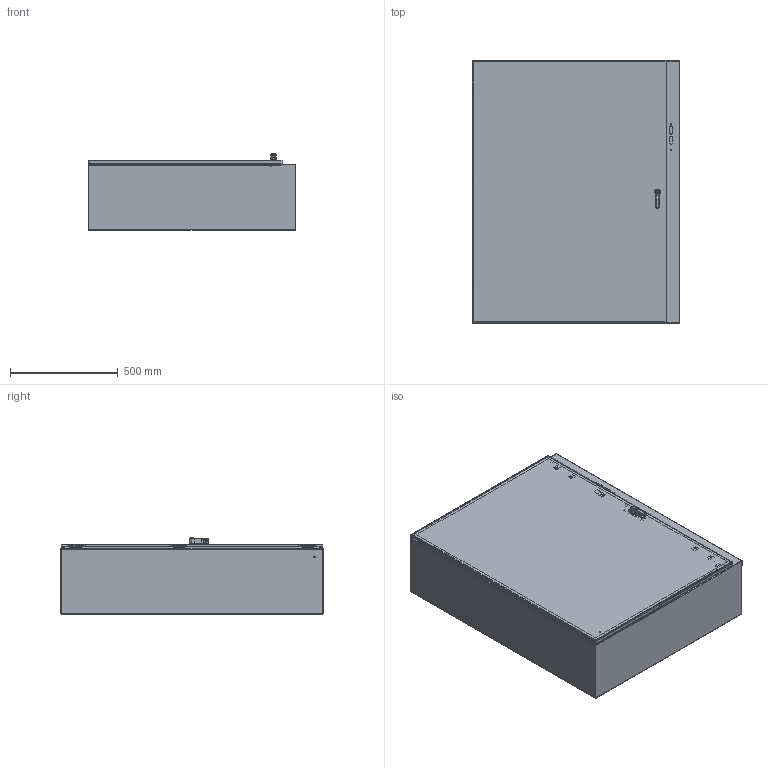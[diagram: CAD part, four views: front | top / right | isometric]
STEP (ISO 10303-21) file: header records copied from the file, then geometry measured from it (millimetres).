
FILE_DESCRIPTION (( 'STEP AP203' ), '1' );
FILE_NAME ('78310.step', '2014-10-10T08:37:18', ( 'admin' ), ( '' ), 'SwSTEP 2.0', 'SolidWorks 2010', '' );
FILE_SCHEMA (( 'CONFIG_CONTROL_DESIGN' ));
Length unit declared in the file: inch
Products named in the file (39): 78310; 89083097; 87756333; 64424005; 64424006; 23271001_After Weld; 99401225_Config-Drawing; 87543027; 89076399; 89076193; 89056623; 87929507; 87929767; 87929769_Installed on Pin; 87938404_assy; 87938426_fip; 87938383; 99401225; 23101001; 51123001_Post weld; 87415914_Locked; 64157001_Locked; 87540678; 64210001; 64208001; 64205001; 87541995; 87541994_Installed Height; 87927840_87927840; 64212006; 64144001; 64206005; 64207001; 64103001; 99411834; 87555298; 87938437; 87784879_CWHPTO; 79410_LOCKED
Assembly tree (60 placements, depth 5):
  78310
    89083097
      64424005
      23271001_After Weld  x8
      64424006
      99401225_Config-Drawing
      87756333
    87929507  x3
      87929767
      87929769_Installed on Pin
    89076399  x3
      89076193
      89056623
    87938404_assy
      87938426_fip
        87938383
        99401225
        23101001
        51123001_Post weld
      87938437
      87555298
      87415914_Locked
        64103001  x5
        64207001  x2
        64206005  x2
        64144001
        64212006
        99411834  x3
        64157001_Locked
          64210001
          64205001  x2
          87541995
          87541994_Installed Height
          87927840_87927840
          87540678
          64208001
    87543027  x3
    87784879_CWHPTO
      79410_LOCKED
Bounding box: 963.93 x 1219.2 x 353.36 mm (x, y, z)
Volume: 7467415.6 mm3; surface area: 7994161.7 mm2
Topology: 58 solids, 58 shells, 3898 faces, 10112 edges, 6364 vertices
Faces by surface type: plane 1784, cylinder 970, bspline 817, torus 191, cone 99, sphere 37
Entity records: 92712 total; most frequent: CARTESIAN_POINT 35531, ORIENTED_EDGE 11576, DIRECTION 9843, EDGE_CURVE 5788, VERTEX_POINT 3653, AXIS2_PLACEMENT_3D 3293, LINE 3257, VECTOR 3257
